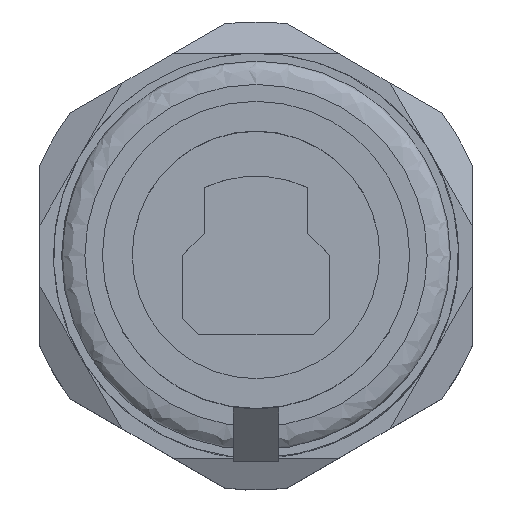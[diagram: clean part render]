
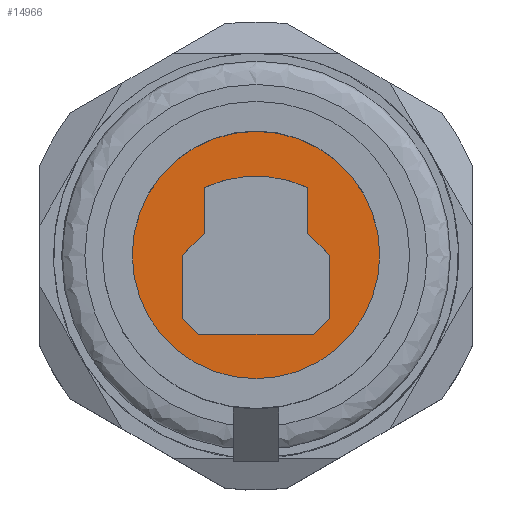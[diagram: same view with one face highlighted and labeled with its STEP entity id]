
A CAD part, top view. The second image highlights one B-rep face of the part: STEP entity #14966.
In plain terms, the highlighted planar face has unit normal (0, 0, 1).
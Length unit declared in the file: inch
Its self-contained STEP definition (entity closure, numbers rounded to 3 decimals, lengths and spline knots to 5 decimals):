
#39=PLANE('',#15835);
#818=FACE_BOUND('',#2867,.T.);
#2029=FACE_OUTER_BOUND('',#2866,.T.);
#2866=EDGE_LOOP('',(#10192));
#2867=EDGE_LOOP('',(#10193,#10194,#10195,#10196,#10197,#10198,#10199,#10200,
#10201,#10202));
#3723=CIRCLE('',#15836,0.27);
#3724=CIRCLE('',#15837,0.26563);
#3971=LINE('',#25683,#5018);
#3974=LINE('',#25688,#5021);
#3976=LINE('',#25692,#5023);
#3978=LINE('',#25696,#5025);
#3980=LINE('',#25700,#5027);
#3981=LINE('',#25707,#5028);
#3982=LINE('',#25709,#5029);
#3983=LINE('',#25711,#5030);
#3984=LINE('',#25712,#5031);
#5018=VECTOR('',#18123,0.3937);
#5021=VECTOR('',#18128,0.3937);
#5023=VECTOR('',#18132,0.3937);
#5025=VECTOR('',#18136,0.3937);
#5027=VECTOR('',#18140,0.3937);
#5028=VECTOR('',#18147,0.3937);
#5029=VECTOR('',#18148,0.3937);
#5030=VECTOR('',#18149,0.3937);
#5031=VECTOR('',#18150,0.3937);
#6070=VERTEX_POINT('',#25680);
#6071=VERTEX_POINT('',#25682);
#6072=VERTEX_POINT('',#25686);
#6073=VERTEX_POINT('',#25690);
#6074=VERTEX_POINT('',#25694);
#6075=VERTEX_POINT('',#25698);
#6076=VERTEX_POINT('',#25702);
#6077=VERTEX_POINT('',#25704);
#6078=VERTEX_POINT('',#25706);
#6079=VERTEX_POINT('',#25708);
#6080=VERTEX_POINT('',#25710);
#7709=EDGE_CURVE('',#6071,#6070,#3971,.T.);
#7712=EDGE_CURVE('',#6070,#6072,#3974,.T.);
#7714=EDGE_CURVE('',#6072,#6073,#3976,.T.);
#7716=EDGE_CURVE('',#6073,#6074,#3978,.T.);
#7718=EDGE_CURVE('',#6074,#6075,#3980,.T.);
#7719=EDGE_CURVE('',#6076,#6076,#3723,.T.);
#7720=EDGE_CURVE('',#6075,#6077,#3724,.T.);
#7721=EDGE_CURVE('',#6077,#6078,#3981,.T.);
#7722=EDGE_CURVE('',#6078,#6079,#3982,.T.);
#7723=EDGE_CURVE('',#6079,#6080,#3983,.T.);
#7724=EDGE_CURVE('',#6080,#6071,#3984,.T.);
#10192=ORIENTED_EDGE('',*,*,#7719,.F.);
#10193=ORIENTED_EDGE('',*,*,#7709,.T.);
#10194=ORIENTED_EDGE('',*,*,#7712,.T.);
#10195=ORIENTED_EDGE('',*,*,#7714,.T.);
#10196=ORIENTED_EDGE('',*,*,#7716,.T.);
#10197=ORIENTED_EDGE('',*,*,#7718,.T.);
#10198=ORIENTED_EDGE('',*,*,#7720,.T.);
#10199=ORIENTED_EDGE('',*,*,#7721,.T.);
#10200=ORIENTED_EDGE('',*,*,#7722,.T.);
#10201=ORIENTED_EDGE('',*,*,#7723,.T.);
#10202=ORIENTED_EDGE('',*,*,#7724,.T.);
#14966=ADVANCED_FACE('',(#2029,#818),#39,.T.);
#15835=AXIS2_PLACEMENT_3D('',#25701,#18141,#18142);
#15836=AXIS2_PLACEMENT_3D('',#25703,#18143,#18144);
#15837=AXIS2_PLACEMENT_3D('',#25705,#18145,#18146);
#18123=DIRECTION('',(-1.,0.,0.));
#18128=DIRECTION('',(-0.707,0.707,0.));
#18132=DIRECTION('',(0.,1.,0.));
#18136=DIRECTION('',(0.707,0.707,0.));
#18140=DIRECTION('',(0.,1.,0.));
#18141=DIRECTION('center_axis',(0.,0.,1.));
#18142=DIRECTION('ref_axis',(1.,0.,0.));
#18143=DIRECTION('center_axis',(0.,0.,-1.));
#18144=DIRECTION('ref_axis',(-1.,0.,0.));
#18145=DIRECTION('center_axis',(0.,0.,-1.));
#18146=DIRECTION('ref_axis',(0.424,0.906,0.));
#18147=DIRECTION('',(0.,-1.,0.));
#18148=DIRECTION('',(0.707,-0.707,0.));
#18149=DIRECTION('',(0.,-1.,0.));
#18150=DIRECTION('',(-0.707,-0.707,0.));
#25680=CARTESIAN_POINT('',(12.64617,0.12323,3.06113));
#25682=CARTESIAN_POINT('',(12.89617,0.12323,3.06113));
#25683=CARTESIAN_POINT('',(12.89617,0.12323,3.06113));
#25686=CARTESIAN_POINT('',(12.61117,0.15823,3.06113));
#25688=CARTESIAN_POINT('',(12.64617,0.12323,3.06113));
#25690=CARTESIAN_POINT('',(12.61117,0.29573,3.06113));
#25692=CARTESIAN_POINT('',(12.61117,0.15823,3.06113));
#25694=CARTESIAN_POINT('',(12.65867,0.34323,3.06113));
#25696=CARTESIAN_POINT('',(12.61117,0.29573,3.06113));
#25698=CARTESIAN_POINT('',(12.65867,0.44323,3.06113));
#25700=CARTESIAN_POINT('',(12.65867,0.34323,3.06113));
#25701=CARTESIAN_POINT('Origin',(12.77117,0.56573,3.06113));
#25702=CARTESIAN_POINT('',(13.04117,0.29573,3.06113));
#25703=CARTESIAN_POINT('Origin',(12.77117,0.29573,3.06113));
#25704=CARTESIAN_POINT('',(12.88367,0.44323,3.06113));
#25705=CARTESIAN_POINT('Origin',(12.77117,0.2026,3.06113));
#25706=CARTESIAN_POINT('',(12.88367,0.34323,3.06113));
#25707=CARTESIAN_POINT('',(12.88367,0.44323,3.06113));
#25708=CARTESIAN_POINT('',(12.93117,0.29573,3.06113));
#25709=CARTESIAN_POINT('',(12.88367,0.34323,3.06113));
#25710=CARTESIAN_POINT('',(12.93117,0.15823,3.06113));
#25711=CARTESIAN_POINT('',(12.93117,0.29573,3.06113));
#25712=CARTESIAN_POINT('',(12.93117,0.15823,3.06113));
